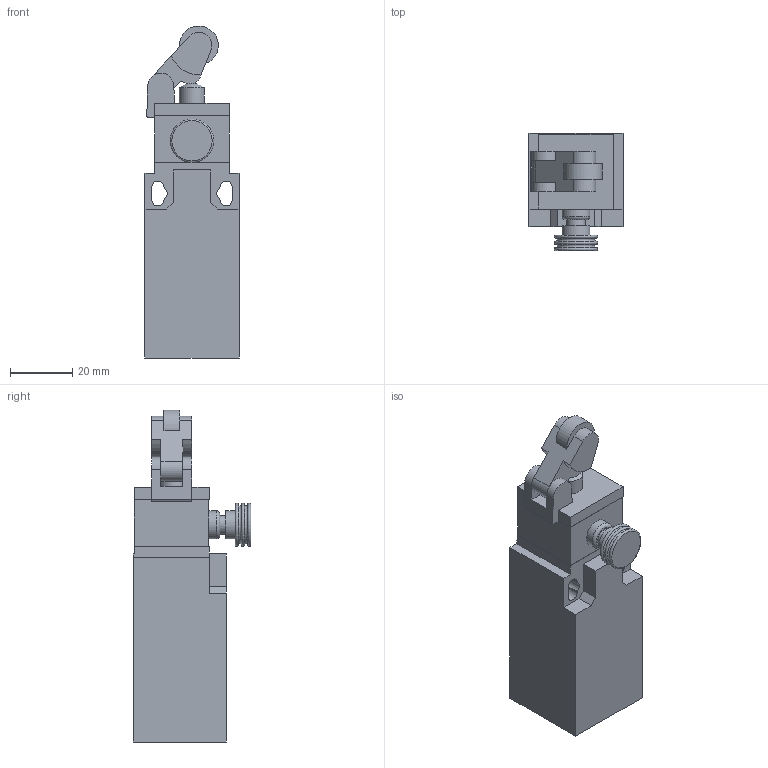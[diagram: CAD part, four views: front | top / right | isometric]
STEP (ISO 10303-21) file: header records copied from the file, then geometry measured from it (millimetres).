
FILE_DESCRIPTION((''),'2;1');
FILE_NAME('C:\Workarea\Disegni\Comepi\Catalogo\Stp\Finecorsa\AP1-R31.stp','2011-08-29T12:21:05',('Paolo'),(''),'Autodesk Inventor 2012','Autodesk Inventor 2012','');
FILE_SCHEMA(('AUTOMOTIVE_DESIGN { 1 0 10303 214 1 1 1 1 }'));
Length unit declared in the file: millimetre
Products named in the file (7): AP1-R31; AP1; R31; T31_1; T31_2; T31_3; R
Assembly tree (6 placements, depth 3):
  AP1-R31
    AP1
    R31
      T31_1
      T31_2
      T31_3
      R
Bounding box: 30.3 x 37.85 x 107 mm (x, y, z)
Volume: 64318.9 mm3; surface area: 18016.8 mm2
Topology: 5 solids, 5 shells, 94 faces, 228 edges, 149 vertices
Faces by surface type: plane 64, cylinder 23, torus 6, sphere 1
Full cylindrical faces by diameter (mm): 6 x1, 8 x2, 9 x2, 20.4 x1
Entity records: 2941 total; most frequent: DIRECTION 483, CARTESIAN_POINT 472, ORIENTED_EDGE 432, EDGE_CURVE 216, VECTOR 163, LINE 163, AXIS2_PLACEMENT_3D 160, VERTEX_POINT 149
